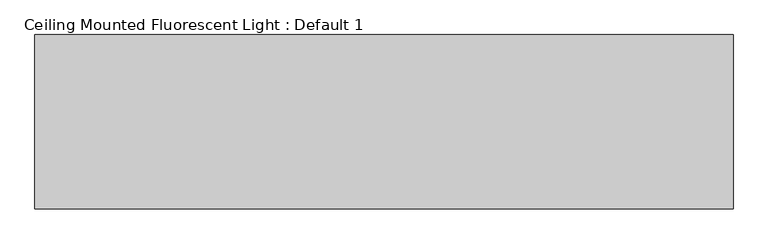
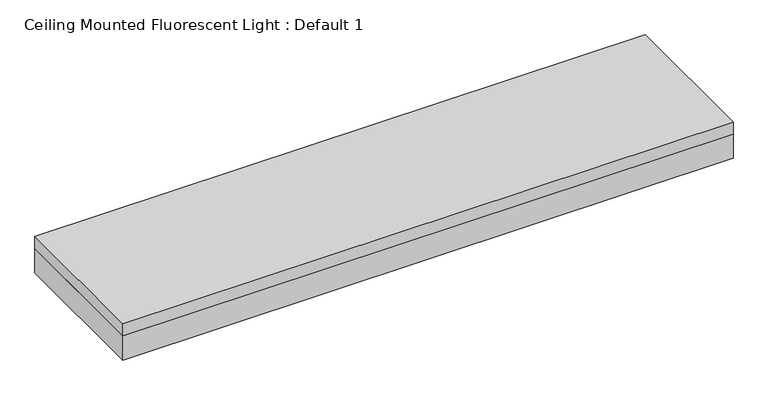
"""IFC4 building model written with IfcOpenShell, lengths in millimetres: light fixture geometry, Ceiling Mounted Fluorescent Light : Default 1."""

from ifc_helpers import new_model, si_unit, frame, origin, place, context, project, spatial, polyline, outline, extrude, source, transform, mapped, element, save


def ceiling_mounted_fluorescent_light_default_1_12463801(model_context):
    return source(origin(), model_context, "Body", "SweptSolid", [
        extrude(outline(polyline([(609.6, 152.4), (609.6, -152.4), (-609.6, -152.4), (-609.6, 152.4), (609.6, 152.4)])), frame((0.0, 0.0, 2413.0), z_axis=(0.0, 0.0, 1.0), x_axis=(1.0, 0.0, 0.0)), (0.0, 0.0, 1.0), 25.4),
        extrude(outline(polyline([(-609.6, -152.4), (-609.6, 152.4), (609.6, 152.4), (609.6, 0.0), (609.6, -152.4), (-609.6, -152.4)]), holes=[polyline([(584.2, 127.0), (-584.2, 127.0), (-584.2, -127.0), (584.2, -127.0), (584.2, 0.0), (584.2, 127.0)])]), frame((0.0, 0.0, 2362.2), z_axis=(0.0, 0.0, 1.0), x_axis=(1.0, 0.0, 0.0)), (0.0, 0.0, 1.0), 50.8),
    ])


if __name__ == "__main__":
    model = new_model("IFC4")
    model_context = context("Model", 3, world=origin())
    ifc_project = project(units=[si_unit("LENGTHUNIT", "METRE", prefix="MILLI")], contexts=[model_context])
    site = spatial("IfcSite", under=ifc_project)
    building = spatial("IfcBuilding", under=site)
    placement = place(None, origin())
    ceiling_mounted_fluorescent_light_default_1_shape = ceiling_mounted_fluorescent_light_default_1_12463801(model_context)
    element("IfcLightFixture", 1, ObjectType="Ceiling Mounted Fluorescent Light : Default 1", at=placement, inside=building, context=model_context, shape_type="MappedRepresentation", body=[
        mapped(ceiling_mounted_fluorescent_light_default_1_shape, transform((0.0, 0.0, 0.0), x_axis=(1.0, 0.0, 0.0), y_axis=(0.0, 1.0, 0.0), z_axis=(0.0, 0.0, 1.0))),
    ])
    save(model, "model.ifc")
